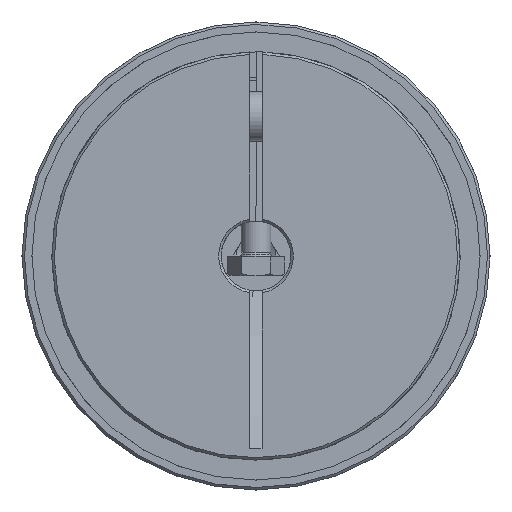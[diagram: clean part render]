
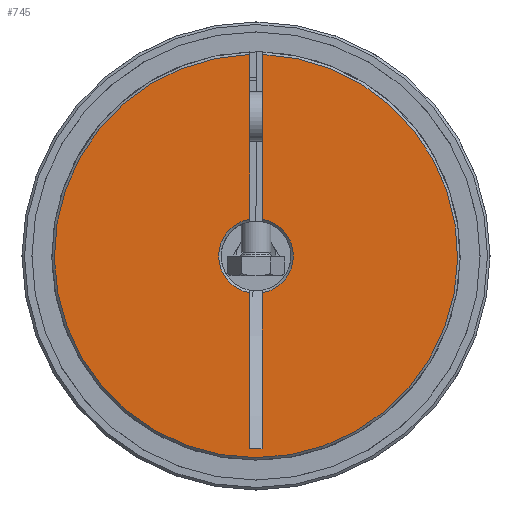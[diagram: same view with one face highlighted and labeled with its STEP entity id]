
A CAD part, left-side view. The second image highlights one B-rep face of the part: STEP entity #745.
In plain terms, the highlighted planar face has unit normal (-1, 0, 0).
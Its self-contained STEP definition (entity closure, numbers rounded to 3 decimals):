
#745 = ADVANCED_FACE( 'NONE', ( #1335 ), #1336, .F. );
#1335 = FACE_OUTER_BOUND( '', #1921, .T. );
#1336 = PLANE( '', #1922 );
#1921 = EDGE_LOOP( '', ( #2903, #2904, #2905, #2906, #2907, #2908, #2909, #2910 ) );
#1922 = AXIS2_PLACEMENT_3D( '', #2911, #2912, #2913 );
#2903 = ORIENTED_EDGE( '', *, *, #3662, .T. );
#2904 = ORIENTED_EDGE( '', *, *, #3663, .T. );
#2905 = ORIENTED_EDGE( '', *, *, #3664, .T. );
#2906 = ORIENTED_EDGE( '', *, *, #3665, .T. );
#2907 = ORIENTED_EDGE( '', *, *, #3666, .F. );
#2908 = ORIENTED_EDGE( '', *, *, #3667, .T. );
#2909 = ORIENTED_EDGE( '', *, *, #3668, .F. );
#2910 = ORIENTED_EDGE( '', *, *, #3669, .T. );
#2911 = CARTESIAN_POINT( '', ( 0., 7., 0. ) );
#2912 = DIRECTION( '', ( 1., 0., 0. ) );
#2913 = DIRECTION( '', ( 0., 1., 0. ) );
#3662 = EDGE_CURVE( 'NONE', #4202, #4203, #4204, .T. );
#3663 = EDGE_CURVE( 'NONE', #4203, #4205, #4206, .T. );
#3664 = EDGE_CURVE( 'NONE', #4205, #4207, #4208, .T. );
#3665 = EDGE_CURVE( 'NONE', #4207, #4209, #4210, .F. );
#3666 = EDGE_CURVE( 'NONE', #4211, #4209, #4212, .F. );
#3667 = EDGE_CURVE( 'NONE', #4211, #4213, #4214, .T. );
#3668 = EDGE_CURVE( 'NONE', #4215, #4213, #4216, .F. );
#3669 = EDGE_CURVE( 'NONE', #4215, #4202, #4217, .T. );
#4202 = VERTEX_POINT( 'NONE', #5271 );
#4203 = VERTEX_POINT( 'NONE', #5272 );
#4204 = LINE( '', #5273, #5274 );
#4205 = VERTEX_POINT( 'NONE', #5275 );
#4206 = CIRCLE( '', #5276, 7.5 );
#4207 = VERTEX_POINT( 'NONE', #5277 );
#4208 = LINE( '', #5278, #5279 );
#4209 = VERTEX_POINT( 'NONE', #5280 );
#4210 = CIRCLE( '', #5281, 40.5 );
#4211 = VERTEX_POINT( 'NONE', #5282 );
#4212 = LINE( '', #5283, #5284 );
#4213 = VERTEX_POINT( 'NONE', #5285 );
#4214 = CIRCLE( '', #5286, 7.5 );
#4215 = VERTEX_POINT( 'NONE', #5287 );
#4216 = LINE( '', #5288, #5289 );
#4217 = LINE( '', #5290, #5291 );
#5271 = CARTESIAN_POINT( '', ( 0., 1.3, -38.697 ) );
#5272 = CARTESIAN_POINT( '', ( 0., 1.3, -7.386 ) );
#5273 = CARTESIAN_POINT( '', ( 0., 1.3, 0. ) );
#5274 = VECTOR( '', #5999, 1000. );
#5275 = CARTESIAN_POINT( '', ( 0., 1.3, 7.386 ) );
#5276 = AXIS2_PLACEMENT_3D( '', #6000, #6001, #6002 );
#5277 = CARTESIAN_POINT( '', ( 0., 1.3, 40.479 ) );
#5278 = CARTESIAN_POINT( '', ( 0., 1.3, 0. ) );
#5279 = VECTOR( '', #6003, 1000. );
#5280 = CARTESIAN_POINT( '', ( 0., -1.3, 40.479 ) );
#5281 = AXIS2_PLACEMENT_3D( '', #6004, #6005, #6006 );
#5282 = CARTESIAN_POINT( '', ( 0., -1.3, 7.386 ) );
#5283 = CARTESIAN_POINT( '', ( 0., -1.3, 11. ) );
#5284 = VECTOR( '', #6007, 1000. );
#5285 = CARTESIAN_POINT( '', ( 0., -1.3, -7.386 ) );
#5286 = AXIS2_PLACEMENT_3D( '', #6008, #6009, #6010 );
#5287 = CARTESIAN_POINT( '', ( 0., -1.3, -38.697 ) );
#5288 = CARTESIAN_POINT( '', ( 0., -1.3, 11. ) );
#5289 = VECTOR( '', #6011, 1000. );
#5290 = CARTESIAN_POINT( '', ( 0., -1.3, -38.697 ) );
#5291 = VECTOR( '', #6012, 1000. );
#5999 = DIRECTION( '', ( 0., 0., 1. ) );
#6000 = CARTESIAN_POINT( '', ( 0., 0., 0. ) );
#6001 = DIRECTION( '', ( 1., 0., 0. ) );
#6002 = DIRECTION( '', ( 0., 0., -1. ) );
#6003 = DIRECTION( '', ( 0., 0., 1. ) );
#6004 = CARTESIAN_POINT( '', ( 0., 0., 0. ) );
#6005 = DIRECTION( '', ( 1., 0., 0. ) );
#6006 = DIRECTION( '', ( 0., 0., -1. ) );
#6007 = DIRECTION( '', ( 0., 0., -1. ) );
#6008 = CARTESIAN_POINT( '', ( 0., 0., 0. ) );
#6009 = DIRECTION( '', ( 1., 0., 0. ) );
#6010 = DIRECTION( '', ( 0., 0., -1. ) );
#6011 = DIRECTION( '', ( 0., 0., -1. ) );
#6012 = DIRECTION( '', ( 0., 1., 0. ) );
